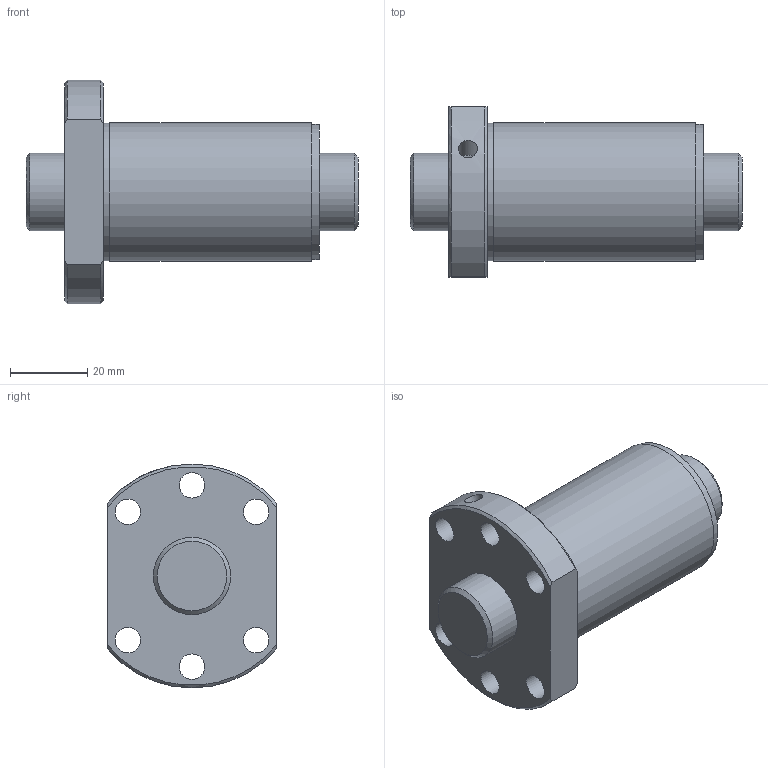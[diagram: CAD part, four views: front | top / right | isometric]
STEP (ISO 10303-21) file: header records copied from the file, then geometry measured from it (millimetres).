
FILE_DESCRIPTION(/* description */ ('STEP AP203'),/* implementation_level */ '2;1');
FILE_NAME(/* name */ 'SDA2020V-3G0+86LC0(0G000)',/* time_stamp */ '2024-05-28T11:30:11+02:00',/* author */ ('License CC BY-ND 4.0'),/* organization */ ('CADENAS'),/* preprocessor_version */ 'ST-DEVELOPER v19.3',/* originating_system */ 'PARTsolutions',/* authorisation */ ' ');
FILE_SCHEMA (('CONFIG_CONTROL_DESIGN'));
Length unit declared in the file: millimetre
Products named in the file (3): SDA2020V-3G0+86LC0(0G000); 000SDA2020V-30Shaft; SDA-V serieSDA2020V-3nut
Assembly tree (2 placements, depth 2):
  SDA2020V-3G0+86LC0(0G000)
    000SDA2020V-30Shaft
    SDA-V serieSDA2020V-3nut
Bounding box: 86 x 44 x 58 mm (x, y, z)
Volume: 83472.5 mm3; surface area: 23146.3 mm2
Topology: 2 solids, 2 shells, 31 faces, 74 edges, 50 vertices
Faces by surface type: cylinder 15, plane 9, cone 7
Full cylindrical faces by diameter (mm): 3.9 x1, 4.917 x1, 6.6 x6, 20 x2, 35 x1, 35.6 x1, 36 x1
Entity records: 915 total; most frequent: CARTESIAN_POINT 174, DIRECTION 144, ORIENTED_EDGE 104, AXIS2_PLACEMENT_3D 68, EDGE_LOOP 66, FACE_BOUND 66, EDGE_CURVE 52, VERTEX_POINT 44
